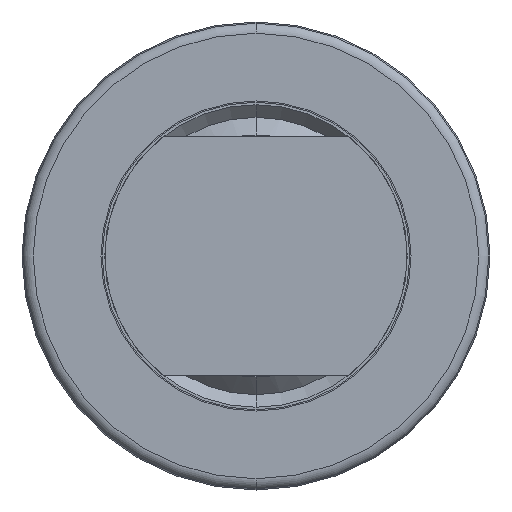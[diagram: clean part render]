
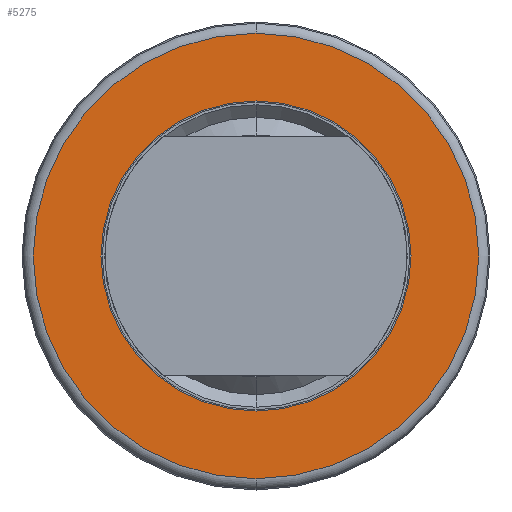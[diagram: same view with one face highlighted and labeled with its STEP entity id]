
A CAD part, left-side view. The second image highlights one B-rep face of the part: STEP entity #5275.
In plain terms, the highlighted planar face has unit normal (-1, 0, 0).
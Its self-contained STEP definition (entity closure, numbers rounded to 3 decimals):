
#239 = DIRECTION ( 'NONE',  ( 0., 0., 1. ) ) ;
#241 = PLANE ( 'NONE',  #1968 ) ;
#242 = FACE_OUTER_BOUND ( 'NONE', #9297, .T. ) ;
#244 = CARTESIAN_POINT ( 'NONE',  ( -50.54, 17.71, 0. ) ) ;
#246 = DIRECTION ( 'NONE',  ( -1., 0., 0. ) ) ;
#248 = FACE_BOUND ( 'NONE', #9340, .T. ) ;
#1968 = AXIS2_PLACEMENT_3D ( 'NONE', #244, #246, #239 ) ;
#2160 = CARTESIAN_POINT ( 'NONE',  ( -50.54, 0., 0. ) ) ;
#2162 = DIRECTION ( 'NONE',  ( 1., 0., 0. ) ) ;
#2164 = DIRECTION ( 'NONE',  ( 0., 0., -1. ) ) ;
#2173 = CARTESIAN_POINT ( 'NONE',  ( -50.54, 0., 0. ) ) ;
#2175 = DIRECTION ( 'NONE',  ( 1., 0., 0. ) ) ;
#2177 = DIRECTION ( 'NONE',  ( 0., 0., -1. ) ) ;
#3756 = CIRCLE ( 'NONE', #3761, 12.325 ) ;
#3758 = CIRCLE ( 'NONE', #3763, 17.71 ) ;
#3761 = AXIS2_PLACEMENT_3D ( 'NONE', #10147, #10148, #10149 ) ;
#3763 = AXIS2_PLACEMENT_3D ( 'NONE', #10150, #10151, #10152 ) ;
#4034 = CIRCLE ( 'NONE', #4045, 17.71 ) ;
#4045 = AXIS2_PLACEMENT_3D ( 'NONE', #2160, #2162, #2164 ) ;
#4046 = CIRCLE ( 'NONE', #4048, 12.325 ) ;
#4048 = AXIS2_PLACEMENT_3D ( 'NONE', #2173, #2175, #2177 ) ;
#5275 = ADVANCED_FACE ( 'NONE', ( #248, #242 ), #241, .T. ) ;
#7307 = ORIENTED_EDGE ( 'NONE', *, *, #9118, .T. ) ;
#7308 = ORIENTED_EDGE ( 'NONE', *, *, #8971, .T. ) ;
#7309 = ORIENTED_EDGE ( 'NONE', *, *, #9116, .F. ) ;
#7310 = ORIENTED_EDGE ( 'NONE', *, *, #8972, .F. ) ;
#8314 = VERTEX_POINT ( 'NONE', #9623 ) ;
#8797 = VERTEX_POINT ( 'NONE', #9807 ) ;
#8809 = VERTEX_POINT ( 'NONE', #9819 ) ;
#8842 = VERTEX_POINT ( 'NONE', #9848 ) ;
#8971 = EDGE_CURVE ( 'NONE', #8314, #8809, #3756, .T. ) ;
#8972 = EDGE_CURVE ( 'NONE', #8797, #8842, #3758, .T. ) ;
#9116 = EDGE_CURVE ( 'NONE', #8842, #8797, #4034, .T. ) ;
#9118 = EDGE_CURVE ( 'NONE', #8809, #8314, #4046, .T. ) ;
#9297 = EDGE_LOOP ( 'NONE', ( #7309, #7310 ) ) ;
#9340 = EDGE_LOOP ( 'NONE', ( #7307, #7308 ) ) ;
#9623 = CARTESIAN_POINT ( 'NONE',  ( -50.54, 0., 12.325 ) ) ;
#9807 = CARTESIAN_POINT ( 'NONE',  ( -50.54, 0., 17.71 ) ) ;
#9819 = CARTESIAN_POINT ( 'NONE',  ( -50.54, 0., -12.325 ) ) ;
#9848 = CARTESIAN_POINT ( 'NONE',  ( -50.54, 0., -17.71 ) ) ;
#10147 = CARTESIAN_POINT ( 'NONE',  ( -50.54, 0., 0. ) ) ;
#10148 = DIRECTION ( 'NONE',  ( 1., 0., 0. ) ) ;
#10149 = DIRECTION ( 'NONE',  ( 0., 0., -1. ) ) ;
#10150 = CARTESIAN_POINT ( 'NONE',  ( -50.54, 0., 0. ) ) ;
#10151 = DIRECTION ( 'NONE',  ( 1., 0., 0. ) ) ;
#10152 = DIRECTION ( 'NONE',  ( 0., 0., -1. ) ) ;
